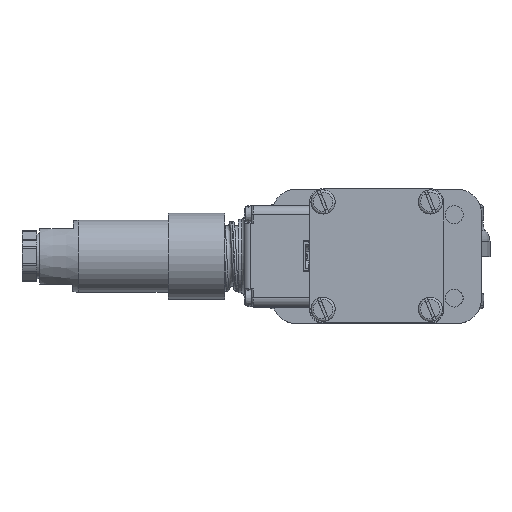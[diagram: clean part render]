
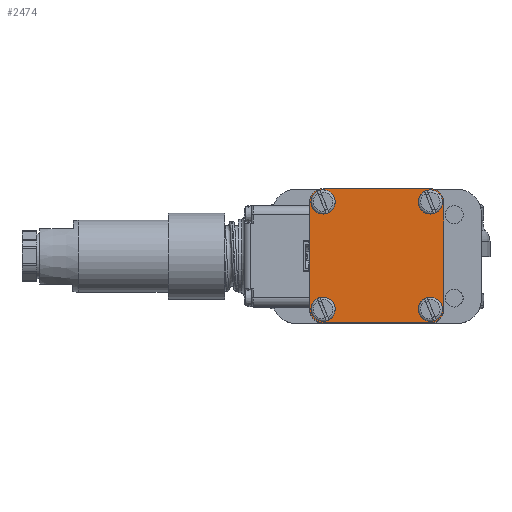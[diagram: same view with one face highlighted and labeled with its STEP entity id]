
A CAD part, top view. The second image highlights one B-rep face of the part: STEP entity #2474.
In plain terms, the highlighted planar face has unit normal (0, 0, 1) as drawn and (-1, 0, 0) by its records, which use the part's own axes.
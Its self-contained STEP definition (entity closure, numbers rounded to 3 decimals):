
#2474 = ADVANCED_FACE( '', ( #5737, #5738, #5739, #5740, #5741 ), #5742, .T. );
#5737 = FACE_BOUND( '', #11292, .T. );
#5738 = FACE_BOUND( '', #11293, .T. );
#5739 = FACE_OUTER_BOUND( '', #11294, .T. );
#5740 = FACE_BOUND( '', #11295, .T. );
#5741 = FACE_BOUND( '', #11296, .T. );
#5742 = PLANE( '', #11297 );
#11292 = EDGE_LOOP( '', ( #17961 ) );
#11293 = EDGE_LOOP( '', ( #17962 ) );
#11294 = EDGE_LOOP( '', ( #17963, #17964, #17965, #17966, #17967, #17968, #17969, #17970 ) );
#11295 = EDGE_LOOP( '', ( #17971 ) );
#11296 = EDGE_LOOP( '', ( #17972 ) );
#11297 = AXIS2_PLACEMENT_3D( '', #17973, #17974, #17975 );
#17961 = ORIENTED_EDGE( '', *, *, #30093, .T. );
#17962 = ORIENTED_EDGE( '', *, *, #30094, .T. );
#17963 = ORIENTED_EDGE( '', *, *, #30095, .T. );
#17964 = ORIENTED_EDGE( '', *, *, #30096, .T. );
#17965 = ORIENTED_EDGE( '', *, *, #30097, .T. );
#17966 = ORIENTED_EDGE( '', *, *, #30098, .T. );
#17967 = ORIENTED_EDGE( '', *, *, #30099, .T. );
#17968 = ORIENTED_EDGE( '', *, *, #30100, .T. );
#17969 = ORIENTED_EDGE( '', *, *, #30101, .T. );
#17970 = ORIENTED_EDGE( '', *, *, #30102, .T. );
#17971 = ORIENTED_EDGE( '', *, *, #30103, .T. );
#17972 = ORIENTED_EDGE( '', *, *, #30104, .T. );
#17973 = CARTESIAN_POINT( '', ( 0., 40.5, 40.5 ) );
#17974 = DIRECTION( '', ( -1., 0., 0. ) );
#17975 = DIRECTION( '', ( 0., 0., 1. ) );
#30093 = EDGE_CURVE( '', #35021, #35021, #35022, .T. );
#30094 = EDGE_CURVE( '', #35023, #35023, #35024, .T. );
#30095 = EDGE_CURVE( '', #35025, #35026, #35027, .T. );
#30096 = EDGE_CURVE( '', #35026, #35028, #35029, .T. );
#30097 = EDGE_CURVE( '', #35028, #35030, #35031, .T. );
#30098 = EDGE_CURVE( '', #35030, #35032, #35033, .T. );
#30099 = EDGE_CURVE( '', #35032, #35034, #35035, .T. );
#30100 = EDGE_CURVE( '', #35034, #35036, #35037, .T. );
#30101 = EDGE_CURVE( '', #35036, #35038, #35039, .T. );
#30102 = EDGE_CURVE( '', #35038, #35025, #35040, .T. );
#30103 = EDGE_CURVE( '', #35041, #35041, #35042, .T. );
#30104 = EDGE_CURVE( '', #35043, #35043, #35044, .T. );
#35021 = VERTEX_POINT( '', #42709 );
#35022 = CIRCLE( '', #42710, 2.8 );
#35023 = VERTEX_POINT( '', #42711 );
#35024 = CIRCLE( '', #42712, 2.8 );
#35025 = VERTEX_POINT( '', #42713 );
#35026 = VERTEX_POINT( '', #42714 );
#35027 = LINE( '', #42715, #42716 );
#35028 = VERTEX_POINT( '', #42717 );
#35029 = CIRCLE( '', #42718, 4.5 );
#35030 = VERTEX_POINT( '', #42719 );
#35031 = LINE( '', #42720, #42721 );
#35032 = VERTEX_POINT( '', #42722 );
#35033 = CIRCLE( '', #42723, 4.5 );
#35034 = VERTEX_POINT( '', #42724 );
#35035 = LINE( '', #42725, #42726 );
#35036 = VERTEX_POINT( '', #42727 );
#35037 = CIRCLE( '', #42728, 4.5 );
#35038 = VERTEX_POINT( '', #42729 );
#35039 = LINE( '', #42730, #42731 );
#35040 = CIRCLE( '', #42732, 4.5 );
#35041 = VERTEX_POINT( '', #42733 );
#35042 = CIRCLE( '', #42734, 2.8 );
#35043 = VERTEX_POINT( '', #42735 );
#35044 = CIRCLE( '', #42736, 2.8 );
#42709 = CARTESIAN_POINT( '', ( 0., 4.5, 7.3 ) );
#42710 = AXIS2_PLACEMENT_3D( '', #53301, #53302, #53303 );
#42711 = CARTESIAN_POINT( '', ( 0., 40.5, 43.3 ) );
#42712 = AXIS2_PLACEMENT_3D( '', #53304, #53305, #53306 );
#42713 = CARTESIAN_POINT( '', ( 0., 4.5, 45. ) );
#42714 = CARTESIAN_POINT( '', ( 0., 40.5, 45. ) );
#42715 = CARTESIAN_POINT( '', ( 0., 4.5, 45. ) );
#42716 = VECTOR( '', #53307, 1000. );
#42717 = CARTESIAN_POINT( '', ( 0., 45., 40.5 ) );
#42718 = AXIS2_PLACEMENT_3D( '', #53308, #53309, #53310 );
#42719 = CARTESIAN_POINT( '', ( 0., 45., 4.5 ) );
#42720 = CARTESIAN_POINT( '', ( 0., 45., 40.5 ) );
#42721 = VECTOR( '', #53311, 1000. );
#42722 = CARTESIAN_POINT( '', ( 0., 40.5, 0. ) );
#42723 = AXIS2_PLACEMENT_3D( '', #53312, #53313, #53314 );
#42724 = CARTESIAN_POINT( '', ( 0., 4.5, 0. ) );
#42725 = CARTESIAN_POINT( '', ( 0., 40.5, 0. ) );
#42726 = VECTOR( '', #53315, 1000. );
#42727 = CARTESIAN_POINT( '', ( 0., 0., 4.5 ) );
#42728 = AXIS2_PLACEMENT_3D( '', #53316, #53317, #53318 );
#42729 = CARTESIAN_POINT( '', ( 0., 0., 40.5 ) );
#42730 = CARTESIAN_POINT( '', ( 0., 0., 4.5 ) );
#42731 = VECTOR( '', #53319, 1000. );
#42732 = AXIS2_PLACEMENT_3D( '', #53320, #53321, #53322 );
#42733 = CARTESIAN_POINT( '', ( 0., 40.5, 7.3 ) );
#42734 = AXIS2_PLACEMENT_3D( '', #53323, #53324, #53325 );
#42735 = CARTESIAN_POINT( '', ( 0., 4.5, 43.3 ) );
#42736 = AXIS2_PLACEMENT_3D( '', #53326, #53327, #53328 );
#53301 = CARTESIAN_POINT( '', ( 0., 4.5, 4.5 ) );
#53302 = DIRECTION( '', ( 1., 0., 0. ) );
#53303 = DIRECTION( '', ( 0., 0., 1. ) );
#53304 = CARTESIAN_POINT( '', ( 0., 40.5, 40.5 ) );
#53305 = DIRECTION( '', ( 1., 0., 0. ) );
#53306 = DIRECTION( '', ( 0., 0., 1. ) );
#53307 = DIRECTION( '', ( 0., 1., 0. ) );
#53308 = CARTESIAN_POINT( '', ( 0., 40.5, 40.5 ) );
#53309 = DIRECTION( '', ( -1., 0., 0. ) );
#53310 = DIRECTION( '', ( 0., 0., 1. ) );
#53311 = DIRECTION( '', ( 0., 0., -1. ) );
#53312 = CARTESIAN_POINT( '', ( 0., 40.5, 4.5 ) );
#53313 = DIRECTION( '', ( -1., 0., 0. ) );
#53314 = DIRECTION( '', ( 0., 1., 0. ) );
#53315 = DIRECTION( '', ( 0., -1., 0. ) );
#53316 = CARTESIAN_POINT( '', ( 0., 4.5, 4.5 ) );
#53317 = DIRECTION( '', ( -1., 0., 0. ) );
#53318 = DIRECTION( '', ( 0., 0., -1. ) );
#53319 = DIRECTION( '', ( 0., 0., 1. ) );
#53320 = CARTESIAN_POINT( '', ( 0., 4.5, 40.5 ) );
#53321 = DIRECTION( '', ( -1., 0., 0. ) );
#53322 = DIRECTION( '', ( 0., 0., 1. ) );
#53323 = CARTESIAN_POINT( '', ( 0., 40.5, 4.5 ) );
#53324 = DIRECTION( '', ( 1., 0., 0. ) );
#53325 = DIRECTION( '', ( 0., 0., 1. ) );
#53326 = CARTESIAN_POINT( '', ( 0., 4.5, 40.5 ) );
#53327 = DIRECTION( '', ( 1., 0., 0. ) );
#53328 = DIRECTION( '', ( 0., 0., 1. ) );
